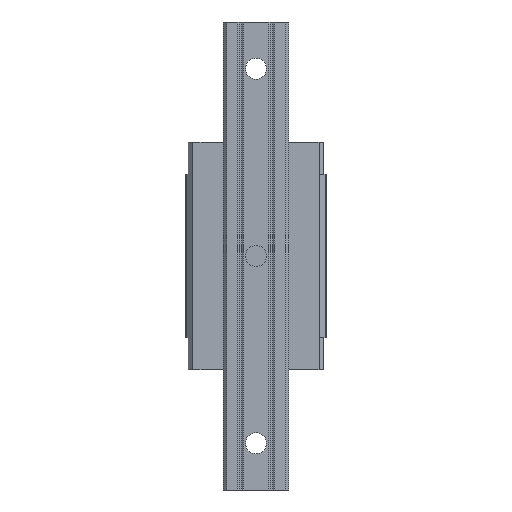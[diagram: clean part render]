
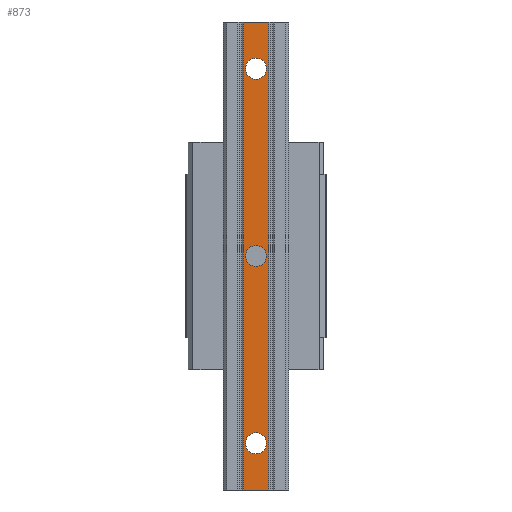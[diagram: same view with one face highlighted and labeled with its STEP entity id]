
A CAD part, front view. The second image highlights one B-rep face of the part: STEP entity #873.
In plain terms, the highlighted planar face has unit normal (0, -1, 0).
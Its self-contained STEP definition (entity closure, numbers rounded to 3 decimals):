
#7 = CARTESIAN_POINT ( 'NONE',  ( 4.5, -26., -80. ) ) ;
#42 = EDGE_LOOP ( 'NONE', ( #4996, #424 ) ) ;
#243 = AXIS2_PLACEMENT_3D ( 'NONE', #1340, #4286, #3083 ) ;
#285 = VERTEX_POINT ( 'NONE', #3586 ) ;
#324 = ORIENTED_EDGE ( 'NONE', *, *, #7367, .T. ) ;
#424 = ORIENTED_EDGE ( 'NONE', *, *, #6269, .T. ) ;
#464 = LINE ( 'NONE', #5700, #4736 ) ;
#545 = FACE_OUTER_BOUND ( 'NONE', #6069, .T. ) ;
#873 = ADVANCED_FACE ( 'NONE', ( #2753, #4648, #5104, #545 ), #2839, .T. ) ;
#908 = CARTESIAN_POINT ( 'NONE',  ( 0., -26., 100. ) ) ;
#912 = DIRECTION ( 'NONE',  ( -1., 0., 0. ) ) ;
#930 = VECTOR ( 'NONE', #6186, 1000. ) ;
#1049 = DIRECTION ( 'NONE',  ( 0., 0., -1. ) ) ;
#1126 = CARTESIAN_POINT ( 'NONE',  ( -5.55, -26., -100. ) ) ;
#1212 = DIRECTION ( 'NONE',  ( 0., 1., 0. ) ) ;
#1324 = ORIENTED_EDGE ( 'NONE', *, *, #5233, .T. ) ;
#1340 = CARTESIAN_POINT ( 'NONE',  ( 0., -26., -80. ) ) ;
#1458 = DIRECTION ( 'NONE',  ( 0., 1., 0. ) ) ;
#1491 = LINE ( 'NONE', #908, #1881 ) ;
#1531 = LINE ( 'NONE', #3852, #930 ) ;
#1626 = VERTEX_POINT ( 'NONE', #2689 ) ;
#1635 = DIRECTION ( 'NONE',  ( 0., -1., 0. ) ) ;
#1672 = VERTEX_POINT ( 'NONE', #5069 ) ;
#1881 = VECTOR ( 'NONE', #5559, 1000. ) ;
#2016 = EDGE_CURVE ( 'NONE', #1672, #1626, #5389, .T. ) ;
#2180 = CARTESIAN_POINT ( 'NONE',  ( 0., -26., 80. ) ) ;
#2183 = AXIS2_PLACEMENT_3D ( 'NONE', #2236, #1635, #1049 ) ;
#2236 = CARTESIAN_POINT ( 'NONE',  ( -5.55, -26., -100. ) ) ;
#2362 = ORIENTED_EDGE ( 'NONE', *, *, #5510, .T. ) ;
#2467 = VERTEX_POINT ( 'NONE', #6862 ) ;
#2632 = AXIS2_PLACEMENT_3D ( 'NONE', #4968, #3814, #2669 ) ;
#2669 = DIRECTION ( 'NONE',  ( -1., 0., 0. ) ) ;
#2689 = CARTESIAN_POINT ( 'NONE',  ( -4.5, -26., 0. ) ) ;
#2717 = CARTESIAN_POINT ( 'NONE',  ( 0., -26., 0. ) ) ;
#2722 = VERTEX_POINT ( 'NONE', #1126 ) ;
#2753 = FACE_BOUND ( 'NONE', #3031, .T. ) ;
#2814 = DIRECTION ( 'NONE',  ( 0., 1., 0. ) ) ;
#2839 = PLANE ( 'NONE',  #2183 ) ;
#2863 = DIRECTION ( 'NONE',  ( 0., 1., 0. ) ) ;
#2867 = ORIENTED_EDGE ( 'NONE', *, *, #4917, .T. ) ;
#2966 = CIRCLE ( 'NONE', #4204, 4.5 ) ;
#3031 = EDGE_LOOP ( 'NONE', ( #2362, #324 ) ) ;
#3083 = DIRECTION ( 'NONE',  ( -1., 0., 0. ) ) ;
#3084 = VERTEX_POINT ( 'NONE', #6013 ) ;
#3288 = EDGE_CURVE ( 'NONE', #6955, #6284, #464, .T. ) ;
#3342 = CIRCLE ( 'NONE', #4084, 4.5 ) ;
#3469 = DIRECTION ( 'NONE',  ( -1., 0., 0. ) ) ;
#3586 = CARTESIAN_POINT ( 'NONE',  ( -4.5, -26., -80. ) ) ;
#3754 = LINE ( 'NONE', #4877, #4744 ) ;
#3814 = DIRECTION ( 'NONE',  ( 0., 1., 0. ) ) ;
#3847 = ORIENTED_EDGE ( 'NONE', *, *, #3288, .T. ) ;
#3852 = CARTESIAN_POINT ( 'NONE',  ( 0., -26., -100. ) ) ;
#3945 = DIRECTION ( 'NONE',  ( 0., 0., 1. ) ) ;
#4011 = CARTESIAN_POINT ( 'NONE',  ( 0., -26., 0. ) ) ;
#4084 = AXIS2_PLACEMENT_3D ( 'NONE', #2180, #1458, #912 ) ;
#4202 = VERTEX_POINT ( 'NONE', #6308 ) ;
#4204 = AXIS2_PLACEMENT_3D ( 'NONE', #4011, #2814, #6331 ) ;
#4286 = DIRECTION ( 'NONE',  ( 0., 1., 0. ) ) ;
#4492 = CIRCLE ( 'NONE', #6430, 4.5 ) ;
#4516 = DIRECTION ( 'NONE',  ( -1., 0., 0. ) ) ;
#4597 = CIRCLE ( 'NONE', #2632, 4.5 ) ;
#4648 = FACE_BOUND ( 'NONE', #42, .T. ) ;
#4736 = VECTOR ( 'NONE', #3945, 1000. ) ;
#4744 = VECTOR ( 'NONE', #6570, 1000. ) ;
#4844 = ORIENTED_EDGE ( 'NONE', *, *, #6285, .T. ) ;
#4877 = CARTESIAN_POINT ( 'NONE',  ( -5.55, -26., -100. ) ) ;
#4917 = EDGE_CURVE ( 'NONE', #1626, #1672, #2966, .T. ) ;
#4967 = EDGE_LOOP ( 'NONE', ( #2867, #5883 ) ) ;
#4968 = CARTESIAN_POINT ( 'NONE',  ( 0., -26., 80. ) ) ;
#4996 = ORIENTED_EDGE ( 'NONE', *, *, #5190, .T. ) ;
#5069 = CARTESIAN_POINT ( 'NONE',  ( 4.5, -26., 0. ) ) ;
#5104 = FACE_BOUND ( 'NONE', #4967, .T. ) ;
#5117 = EDGE_CURVE ( 'NONE', #3084, #6284, #1491, .T. ) ;
#5190 = EDGE_CURVE ( 'NONE', #4202, #2467, #3342, .T. ) ;
#5233 = EDGE_CURVE ( 'NONE', #3084, #2722, #3754, .T. ) ;
#5299 = CARTESIAN_POINT ( 'NONE',  ( 0., -26., -80. ) ) ;
#5389 = CIRCLE ( 'NONE', #7470, 4.5 ) ;
#5510 = EDGE_CURVE ( 'NONE', #285, #7164, #4492, .T. ) ;
#5559 = DIRECTION ( 'NONE',  ( 1., 0., 0. ) ) ;
#5700 = CARTESIAN_POINT ( 'NONE',  ( 5.55, -26., -100. ) ) ;
#5883 = ORIENTED_EDGE ( 'NONE', *, *, #2016, .T. ) ;
#6013 = CARTESIAN_POINT ( 'NONE',  ( -5.55, -26., 100. ) ) ;
#6069 = EDGE_LOOP ( 'NONE', ( #1324, #4844, #3847, #7451 ) ) ;
#6115 = CIRCLE ( 'NONE', #243, 4.5 ) ;
#6186 = DIRECTION ( 'NONE',  ( 1., 0., 0. ) ) ;
#6269 = EDGE_CURVE ( 'NONE', #2467, #4202, #4597, .T. ) ;
#6284 = VERTEX_POINT ( 'NONE', #6751 ) ;
#6285 = EDGE_CURVE ( 'NONE', #2722, #6955, #1531, .T. ) ;
#6308 = CARTESIAN_POINT ( 'NONE',  ( -4.5, -26., 80. ) ) ;
#6331 = DIRECTION ( 'NONE',  ( -1., 0., 0. ) ) ;
#6430 = AXIS2_PLACEMENT_3D ( 'NONE', #5299, #1212, #4516 ) ;
#6541 = CARTESIAN_POINT ( 'NONE',  ( 5.55, -26., -100. ) ) ;
#6570 = DIRECTION ( 'NONE',  ( 0., 0., -1. ) ) ;
#6751 = CARTESIAN_POINT ( 'NONE',  ( 5.55, -26., 100. ) ) ;
#6862 = CARTESIAN_POINT ( 'NONE',  ( 4.5, -26., 80. ) ) ;
#6955 = VERTEX_POINT ( 'NONE', #6541 ) ;
#7164 = VERTEX_POINT ( 'NONE', #7 ) ;
#7367 = EDGE_CURVE ( 'NONE', #7164, #285, #6115, .T. ) ;
#7451 = ORIENTED_EDGE ( 'NONE', *, *, #5117, .F. ) ;
#7470 = AXIS2_PLACEMENT_3D ( 'NONE', #2717, #2863, #3469 ) ;
